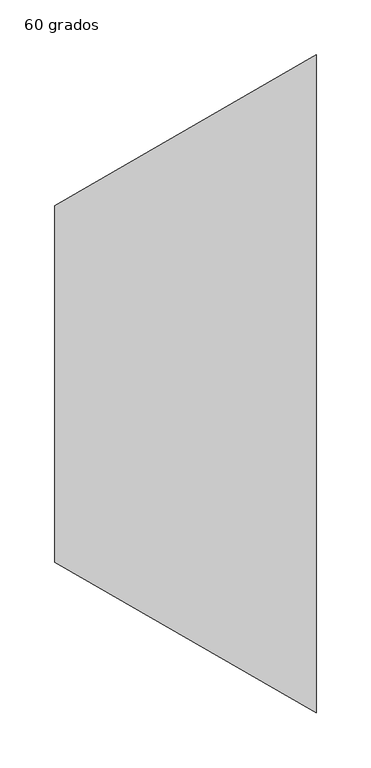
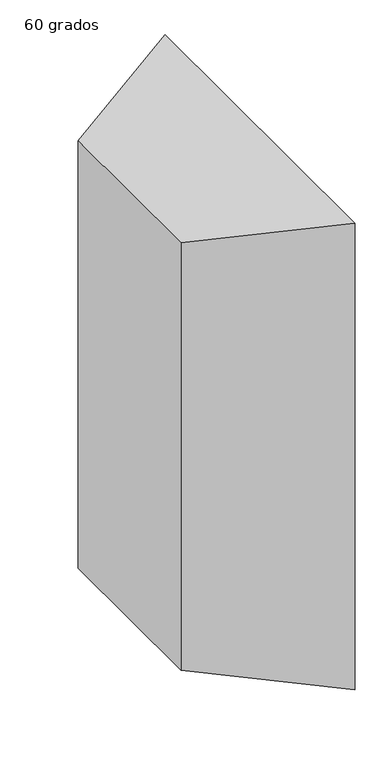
"""IFC4 building model written with IfcOpenShell, lengths in millimetres: duct fitting geometry, M_Transición rectangular - Ángulo : 60 grados."""

from ifc_helpers import new_model, si_unit, origin, place, context, project, spatial, faceted_brep, source, transform, mapped, element, save


def duct_fitting_60_grados_89669d56(model_context):
    return source(origin(), model_context, "Body", "Brep", [
        faceted_brep([(238.156986, -300.0, 450.0), (238.156986, -300.0, -450.0), (238.156986, 300.0, -450.0), (238.156986, 300.0, 450.0), (0.0, -162.5, 412.5), (0.0, 162.5, 412.5), (0.0, 162.5, -412.5), (0.0, -162.5, -412.5)], [[[0, 1, 2, 3]], [[4, 5, 6, 7]], [[4, 7, 1, 0]], [[7, 6, 2, 1]], [[6, 5, 3, 2]], [[5, 4, 0, 3]]]),
    ])


if __name__ == "__main__":
    model = new_model("IFC4")
    model_context = context("Model", 3, world=origin())
    ifc_project = project(units=[si_unit("LENGTHUNIT", "METRE", prefix="MILLI")], contexts=[model_context])
    site = spatial("IfcSite", under=ifc_project)
    building = spatial("IfcBuilding", under=site)
    placement = place(None, origin())
    duct_fitting_60_grados_shape = duct_fitting_60_grados_89669d56(model_context)
    element("IfcDuctFitting", 1, ObjectType="M_Transición rectangular - Ángulo : 60 grados", at=placement, inside=building, context=model_context, shape_type="MappedRepresentation", body=[
        mapped(duct_fitting_60_grados_shape, transform((0.0, 0.0, 0.0), x_axis=(1.0, 0.0, 0.0), y_axis=(0.0, 1.0, 0.0), z_axis=(0.0, 0.0, 1.0))),
    ])
    save(model, "model.ifc")
